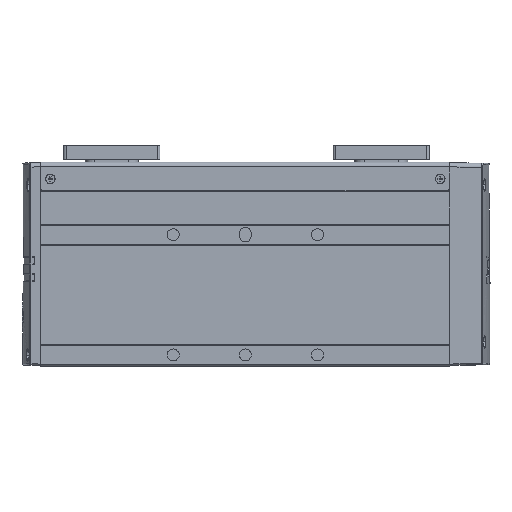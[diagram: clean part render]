
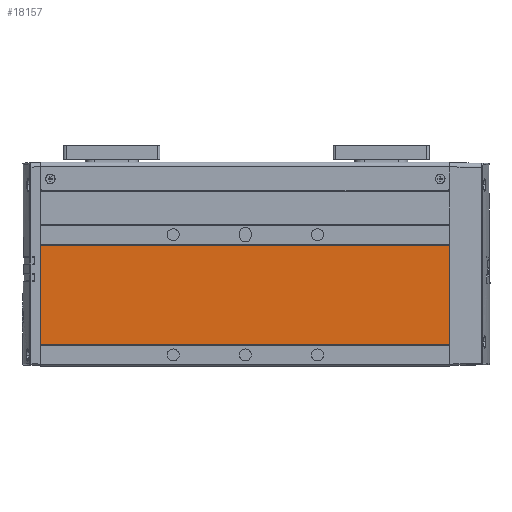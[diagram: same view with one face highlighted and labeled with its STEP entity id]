
A CAD part, top view. The second image highlights one B-rep face of the part: STEP entity #18157.
In plain terms, the highlighted planar face has unit normal (0, 0, 1).
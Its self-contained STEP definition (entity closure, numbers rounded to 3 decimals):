
#1031 = VERTEX_POINT ( 'NONE', #2970 ) ;
#1133 = DIRECTION ( 'NONE',  ( -1., 0., 0. ) ) ;
#1698 = CARTESIAN_POINT ( 'NONE',  ( -85., 50.5, 23.7 ) ) ;
#2858 = VECTOR ( 'NONE', #41363, 1000. ) ;
#2970 = CARTESIAN_POINT ( 'NONE',  ( -85., 50.5, 23.7 ) ) ;
#5597 = PLANE ( 'NONE',  #39066 ) ;
#6113 = EDGE_CURVE ( 'NONE', #18491, #8880, #9710, .T. ) ;
#8880 = VERTEX_POINT ( 'NONE', #19392 ) ;
#9531 = DIRECTION ( 'NONE',  ( 0., 1., 0. ) ) ;
#9593 = VECTOR ( 'NONE', #48869, 1000. ) ;
#9710 = LINE ( 'NONE', #36121, #39436 ) ;
#10807 = LINE ( 'NONE', #22250, #2858 ) ;
#18157 = ADVANCED_FACE ( 'NONE', ( #32007 ), #5597, .F. ) ;
#18491 = VERTEX_POINT ( 'NONE', #19701 ) ;
#19392 = CARTESIAN_POINT ( 'NONE',  ( -85., 9.122, 23.7 ) ) ;
#19701 = CARTESIAN_POINT ( 'NONE',  ( 85., 9.122, 23.7 ) ) ;
#20216 = CARTESIAN_POINT ( 'NONE',  ( 85., 50.5, 23.7 ) ) ;
#21289 = DIRECTION ( 'NONE',  ( 0., -1., 0. ) ) ;
#22250 = CARTESIAN_POINT ( 'NONE',  ( 85., 50.5, 23.7 ) ) ;
#22386 = LINE ( 'NONE', #45103, #9593 ) ;
#28354 = VECTOR ( 'NONE', #21289, 1000. ) ;
#32007 = FACE_OUTER_BOUND ( 'NONE', #34672, .T. ) ;
#32804 = DIRECTION ( 'NONE',  ( 0., 0., -1. ) ) ;
#34672 = EDGE_LOOP ( 'NONE', ( #46161, #48067, #49731, #47107 ) ) ;
#34757 = EDGE_CURVE ( 'NONE', #45063, #1031, #10807, .T. ) ;
#36121 = CARTESIAN_POINT ( 'NONE',  ( 85., 9.122, 23.7 ) ) ;
#38674 = EDGE_CURVE ( 'NONE', #45063, #18491, #22386, .T. ) ;
#39066 = AXIS2_PLACEMENT_3D ( 'NONE', #48065, #32804, #9531 ) ;
#39436 = VECTOR ( 'NONE', #1133, 1000. ) ;
#41363 = DIRECTION ( 'NONE',  ( -1., 0., 0. ) ) ;
#45063 = VERTEX_POINT ( 'NONE', #20216 ) ;
#45103 = CARTESIAN_POINT ( 'NONE',  ( 85., 50.5, 23.7 ) ) ;
#46161 = ORIENTED_EDGE ( 'NONE', *, *, #49283, .T. ) ;
#47107 = ORIENTED_EDGE ( 'NONE', *, *, #34757, .T. ) ;
#48065 = CARTESIAN_POINT ( 'NONE',  ( 85., 50.5, 23.7 ) ) ;
#48067 = ORIENTED_EDGE ( 'NONE', *, *, #6113, .F. ) ;
#48795 = LINE ( 'NONE', #1698, #28354 ) ;
#48869 = DIRECTION ( 'NONE',  ( 0., -1., 0. ) ) ;
#49283 = EDGE_CURVE ( 'NONE', #1031, #8880, #48795, .T. ) ;
#49731 = ORIENTED_EDGE ( 'NONE', *, *, #38674, .F. ) ;
